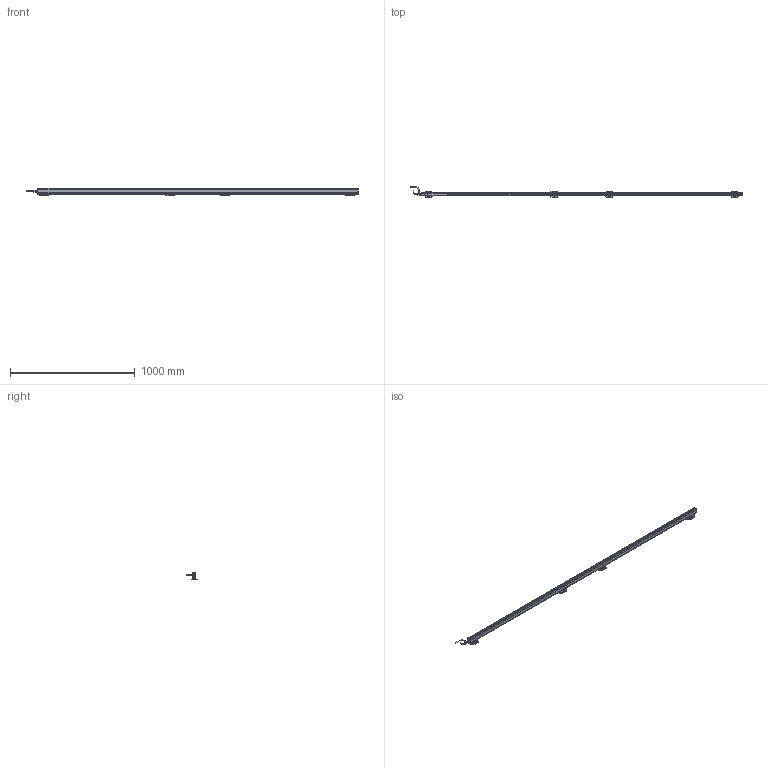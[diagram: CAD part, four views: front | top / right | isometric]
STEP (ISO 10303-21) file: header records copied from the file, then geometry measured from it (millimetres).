
FILE_DESCRIPTION(('Bauteilbeschreibung','HiCAD-Model','HiCAD-STEP-TRANSLATION','Bauteilbeschreibung'),'2;1');
FILE_NAME('PERFORMAXIQEASY_2490-2580_3D.STP','2014-03-05T12:55:18+00:00',('Konstrukteur'),('Konstrukteur Firma GmbH'),' HiCAD 2011, Step 1600.0 ','HiCAD 2011','confidential');
FILE_SCHEMA(('AUTOMOTIVE_DESIGN { 1 2 10303 214 0 1 1 1 }'));
Products named in the file (46): PERFORMAXIQEASY_2490_2580_3D; A_PERFORMAX IQ EASY 2490_2580; A_PERFORMAX IQ EASY SPEED; A_CAP DE; A_CAP CE_5; LED_2C_3MM; LED02C03MM; A519020315_CONNECTOR APPLIANCE; A_INSERT; A_CONTACTS; A_HOUSING; A_PROFILE; A_POTTING; PIN; PIN0; A532000100_BRACKET BARS_ MOUNT; A_SIDE PIECE; A0SIDE0PIECE; A_BRACKET SMALL; A_SLIDE PIECE; A5320001000BRACKET0BARS00MOUNT; A0SIDE0PIECE0; A0SIDE0PIECE1; A0BRACKET0SMALL; A0SLIDE0PIECE; A5320001000BRACKET0BARS00MOUNT0; A0SIDE0PIECE2; A0SIDE0PIECE3; A0BRACKET0SMALL0; A0SLIDE0PIECE0; A0SIDE0PIECE4; A0SIDE0PIECE5; A0BRACKET0SMALL1; A0SLIDE0PIECE1; A_CONNECTOR STRAIGHT; EXTRUDED SOLID_0; DRAAD GEBOGEN; REVOLVED SOLID_1; REVOLVED SOLID_3; A_CONNECTOR ANGLED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
Assembly tree (45 placements, depth 5):
  PERFORMAXIQEASY_2490_2580_3D
    A_PERFORMAX IQ EASY 2490_2580
      A_PERFORMAX IQ EASY SPEED
        A_CAP DE
        A_CAP CE_5
        LED_2C_3MM
        LED02C03MM
        A519020315_CONNECTOR APPLIANCE
          A_INSERT
          A_CONTACTS
          A_HOUSING
        A_PROFILE
        A_POTTING
        PIN
        PIN0
      A532000100_BRACKET BARS_ MOUNT
        A_SIDE PIECE
        A0SIDE0PIECE
        A_BRACKET SMALL
        A_SLIDE PIECE
      A5320001000BRACKET0BARS00MOUNT
        A0SIDE0PIECE0
        A0SIDE0PIECE1
        A0BRACKET0SMALL
        A0SLIDE0PIECE
      A5320001000BRACKET0BARS00MOUNT0
        A0SIDE0PIECE2
        A0SIDE0PIECE3
        A0BRACKET0SMALL0
        A0SLIDE0PIECE0
      A5320001000BRACKET0BARS00MOUNT0
        A0SIDE0PIECE4
        A0SIDE0PIECE5
        A0BRACKET0SMALL1
        A0SLIDE0PIECE1
      A_CONNECTOR STRAIGHT
        EXTRUDED SOLID_0
        DRAAD GEBOGEN
        REVOLVED SOLID_1
        REVOLVED SOLID_3
      A_CONNECTOR ANGLED
        REVOLVED0SOLID01
        EXTRUDED0SOLID00
        C_EDGE SWEEP_0
        REVOLVED SOLID_2
        REVOLVED0SOLID03
Bounding box: 2657.89 x 84.27 x 63.13 mm (x, y, z)
Volume: 2659999.5 mm3; surface area: 650981.5 mm2
Topology: 41 solids, 41 shells, 3447 faces, 8839 edges, 5258 vertices
Faces by surface type: cylinder 1457, plane 1315, sphere 222, torus 205, bspline 168, cone 80
Full cylindrical faces by diameter (mm): 0.8 x10, 1 x5, 2.387 x8, 3 x19, 3.1 x1, 4.2 x2, 5 x4, 5.5 x20, 8 x2, 8.2 x1, 8.4 x2, 8.945 x1, 9 x2, 10.2 x1, 10.5 x3, 11 x1, 12 x3, 12.8 x1, 13.8 x4, 14.5 x3
Entity records: 159221 total; most frequent: CARTESIAN_POINT 37152, DIRECTION 17145, ORIENTED_EDGE 16748, EDGE_CURVE 8374, COLOUR_RGB 7959, PRESENTATION_STYLE_ASSIGNMENT 7959, OVER_RIDING_STYLED_ITEM 7923, CURVE_STYLE 7918
